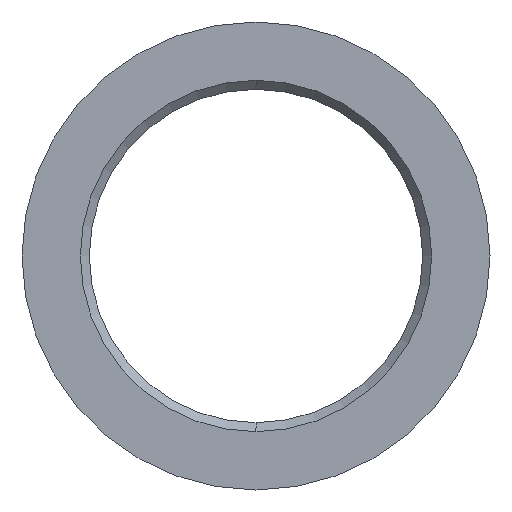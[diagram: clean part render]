
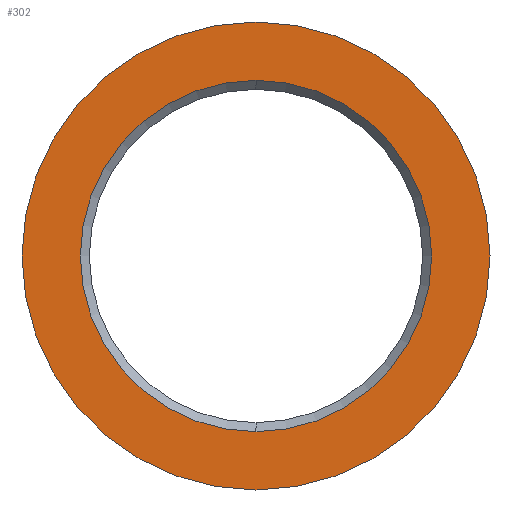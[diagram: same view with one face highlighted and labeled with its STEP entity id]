
A CAD part, left-side view. The second image highlights one B-rep face of the part: STEP entity #302.
In plain terms, the highlighted planar face has unit normal (-1, 0, 0).
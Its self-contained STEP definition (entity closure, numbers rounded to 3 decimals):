
#301 = EDGE_CURVE ( 'NONE', #599, #596, #1232, .T. ) ;
#302 = ADVANCED_FACE ( 'NONE', ( #1228, #1292 ), #1233, .F. ) ;
#303 = ORIENTED_EDGE ( 'NONE', *, *, #515, .T. ) ;
#304 = ORIENTED_EDGE ( 'NONE', *, *, #305, .T. ) ;
#305 = EDGE_CURVE ( 'NONE', #513, #516, #1290, .T. ) ;
#306 = EDGE_LOOP ( 'NONE', ( #307, #308 ) ) ;
#307 = ORIENTED_EDGE ( 'NONE', *, *, #301, .F. ) ;
#308 = ORIENTED_EDGE ( 'NONE', *, *, #598, .F. ) ;
#352 = EDGE_LOOP ( 'NONE', ( #303, #304 ) ) ;
#513 = VERTEX_POINT ( 'NONE', #1308 ) ;
#515 = EDGE_CURVE ( 'NONE', #516, #513, #1307, .T. ) ;
#516 = VERTEX_POINT ( 'NONE', #1302 ) ;
#596 = VERTEX_POINT ( 'NONE', #1780 ) ;
#598 = EDGE_CURVE ( 'NONE', #596, #599, #1779, .T. ) ;
#599 = VERTEX_POINT ( 'NONE', #1774 ) ;
#1228 = FACE_BOUND ( 'NONE', #352, .T. ) ;
#1229 = DIRECTION ( 'NONE',  ( 0., 0., -1. ) ) ;
#1230 = DIRECTION ( 'NONE',  ( 1., 0., 0. ) ) ;
#1231 = AXIS2_PLACEMENT_3D ( 'NONE', #1237, #1230, #1229 ) ;
#1232 = CIRCLE ( 'NONE', #1231, 7.86 ) ;
#1233 = PLANE ( 'NONE',  #1291 ) ;
#1237 = CARTESIAN_POINT ( 'NONE',  ( 0., 0., 0. ) ) ;
#1283 = DIRECTION ( 'NONE',  ( 0., 0., -1. ) ) ;
#1284 = DIRECTION ( 'NONE',  ( 1., 0., 0. ) ) ;
#1285 = CARTESIAN_POINT ( 'NONE',  ( 0., 0., 0. ) ) ;
#1286 = AXIS2_PLACEMENT_3D ( 'NONE', #1285, #1284, #1283 ) ;
#1287 = DIRECTION ( 'NONE',  ( 0., 0., -1. ) ) ;
#1288 = DIRECTION ( 'NONE',  ( 1., 0., 0. ) ) ;
#1289 = CARTESIAN_POINT ( 'NONE',  ( 0., 0., 0. ) ) ;
#1290 = CIRCLE ( 'NONE', #1286, 5.9 ) ;
#1291 = AXIS2_PLACEMENT_3D ( 'NONE', #1289, #1288, #1287 ) ;
#1292 = FACE_OUTER_BOUND ( 'NONE', #306, .T. ) ;
#1302 = CARTESIAN_POINT ( 'NONE',  ( 0., 0., 5.9 ) ) ;
#1303 = DIRECTION ( 'NONE',  ( 0., 0., -1. ) ) ;
#1304 = DIRECTION ( 'NONE',  ( 1., 0., 0. ) ) ;
#1305 = CARTESIAN_POINT ( 'NONE',  ( 0., 0., 0. ) ) ;
#1306 = AXIS2_PLACEMENT_3D ( 'NONE', #1305, #1304, #1303 ) ;
#1307 = CIRCLE ( 'NONE', #1306, 5.9 ) ;
#1308 = CARTESIAN_POINT ( 'NONE',  ( 0., 0., -5.9 ) ) ;
#1774 = CARTESIAN_POINT ( 'NONE',  ( 0., 0., 7.86 ) ) ;
#1775 = DIRECTION ( 'NONE',  ( 0., 0., -1. ) ) ;
#1776 = DIRECTION ( 'NONE',  ( 1., 0., 0. ) ) ;
#1777 = CARTESIAN_POINT ( 'NONE',  ( 0., 0., 0. ) ) ;
#1778 = AXIS2_PLACEMENT_3D ( 'NONE', #1777, #1776, #1775 ) ;
#1779 = CIRCLE ( 'NONE', #1778, 7.86 ) ;
#1780 = CARTESIAN_POINT ( 'NONE',  ( 0., 0., -7.86 ) ) ;
